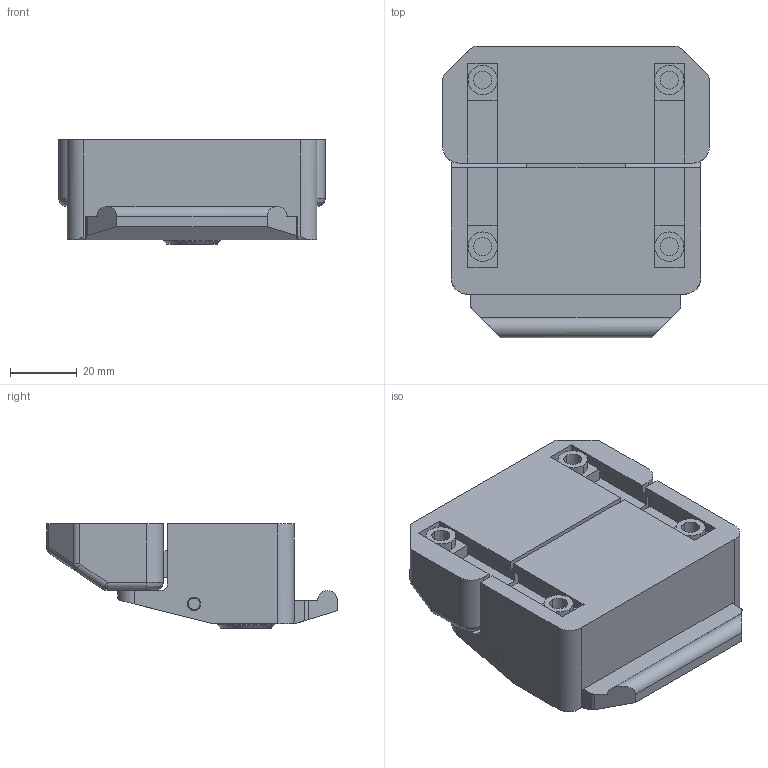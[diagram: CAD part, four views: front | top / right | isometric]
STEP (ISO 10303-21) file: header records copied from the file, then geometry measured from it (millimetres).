
FILE_DESCRIPTION (( 'STEP AP203' ), '1' );
FILE_NAME ('404020_Türschloss verschiedenschließend.step', '2018-11-28T15:48:39', ( '' ), ( '' ), 'SwSTEP 2.0', 'SolidWorks 2017', '' );
FILE_SCHEMA (( 'CONFIG_CONTROL_DESIGN' ));
Length unit declared in the file: millimetre
Products named in the file (4): Achse; 404020_Türschloss verschiedenschließend; Türschloss verschiedenschließend; Gewindeeinsatz
Assembly tree (6 placements, depth 2):
  404020_Türschloss verschiedenschließend
    Türschloss verschiedenschließend
    Gewindeeinsatz  x4
    Achse
Bounding box: 80 x 87.32 x 31.27 mm (x, y, z)
Volume: 130575 mm3; surface area: 33828.6 mm2
Topology: 6 solids, 7 shells, 232 faces, 626 edges, 404 vertices
Faces by surface type: plane 150, cylinder 68, bspline 8, cone 6
Entity records: 6578 total; most frequent: CARTESIAN_POINT 1280, ORIENTED_EDGE 1028, DIRECTION 988, EDGE_CURVE 514, LINE 376, VECTOR 376, VERTEX_POINT 332, AXIS2_PLACEMENT_3D 306
